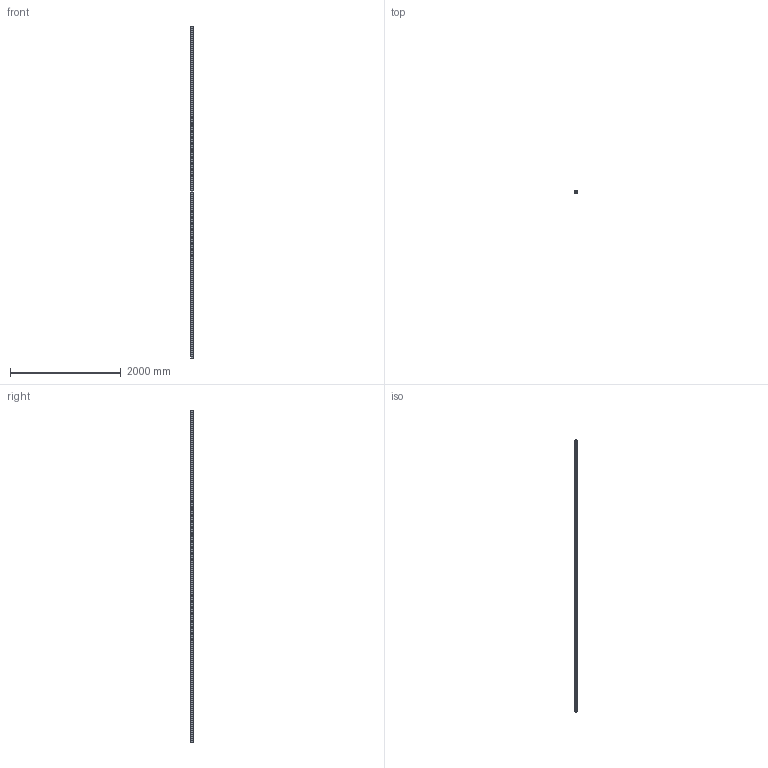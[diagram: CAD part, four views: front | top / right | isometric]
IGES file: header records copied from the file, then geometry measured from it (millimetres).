
Start section: SolidWorks IGES file using analytic representation for surfaces
Global section: file name: C:\Users\Ahmed\Desktop\Aluminium profiles\45x45 (Heavy) 100mm.IGS; native system: SolidWorks 2016; preprocessor: SolidWorks 2016; author: Ahmed; date: 170806.011229; units: millimetre
Bounding box: 45 x 45 x 6000 mm (x, y, z)
Surface area: 3548623.5 mm2 (no closed solid volume)
Topology: 0 solids, 0 shells, 314 faces, 3109 edges, 3109 vertices
Faces by surface type: bspline 234, revolution 80
